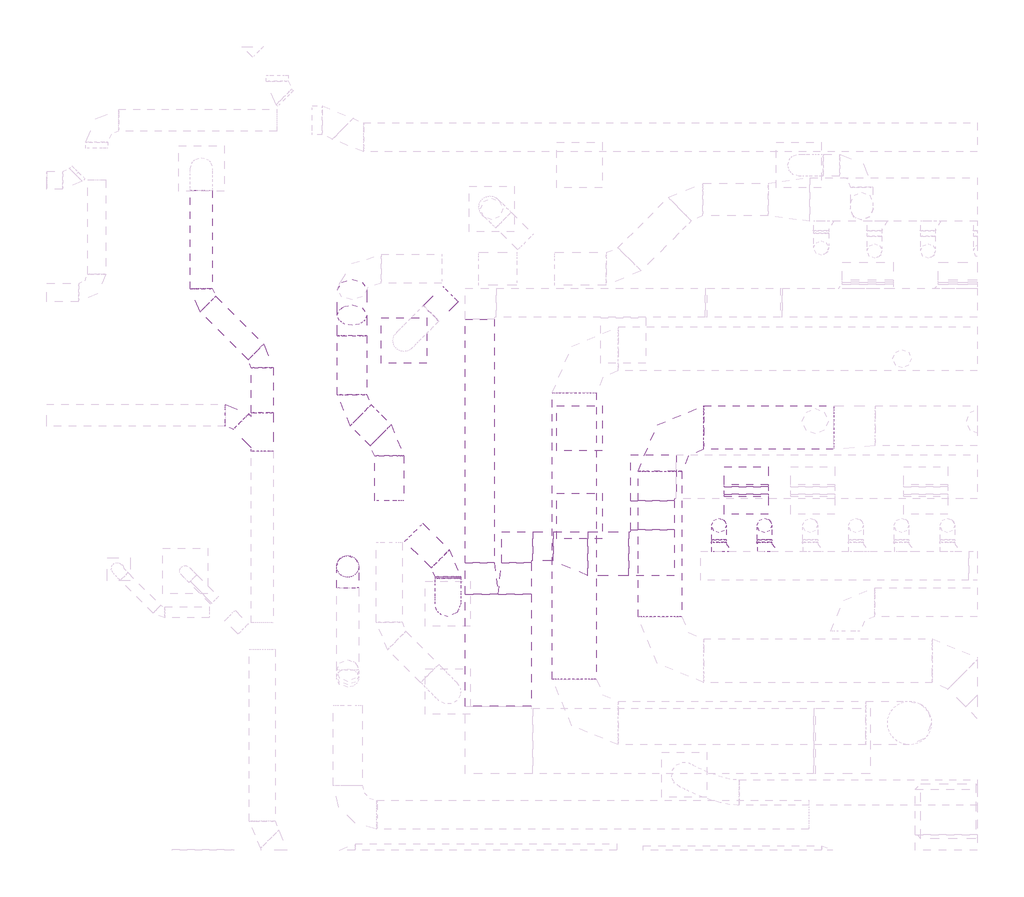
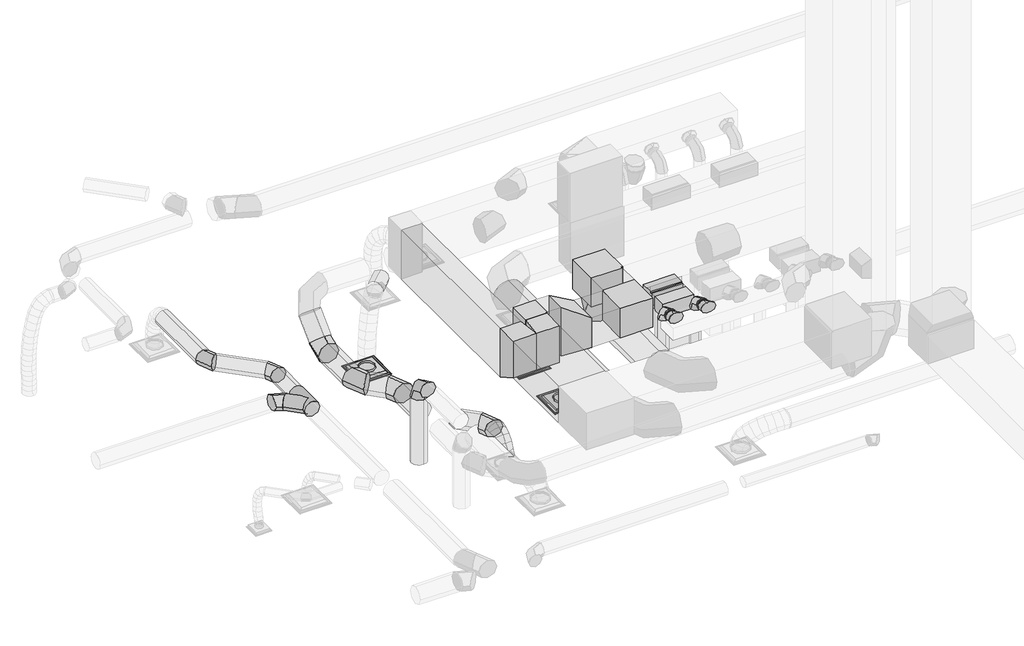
# One storey, part 15 of 33: 27 duct segments, 22 duct fittings, 3 air terminals.
"""IFC4 building model written with IfcOpenShell, lengths in millimetres."""

from ifc_helpers import new_model, si_unit, point, frame, frame_2d, origin, place, context, project, spatial, polyline, circle_curve, ellipse_curve, trimmed, segment, composite_curve, outline, extrude, transform, mapped, element, save
from ifc_brep_helpers import plane_surface, cylinder_surface, advanced_brep
from components import air_terminal_a17ada07, air_terminal_7f3dec8e, rectangular_elbow_mitered_standard_5cce6547, rectangular_elbow_mitered_standard_4791c952, rectangular_elbow_mitered_standard_939e93b7, rectangular_transition_angle_30_degree_e890b99e, rectangular_transition_angle_30_degree_7548fecf, rectangular_transition_angle_45_degree_e3061ba4, round_elbow_1_d_90614eb6, round_elbow_1_d_28128332, round_elbow_1_d_30de4f45, round_elbow_1_d_29f30982, round_elbow_1_d_146a3901, round_elbow_1_d_a253342a, round_takeoff_shoe_standard_04262b54, round_wye_lateral_tapered_body_standard_42fe97ee

model = new_model("IFC4")

# Units and contexts
model_context = context("Model", 3, world=origin())
ifc_project = project(units=[si_unit("LENGTHUNIT", "METRE", prefix="MILLI")], contexts=[model_context])

# Site, building, storey
site = spatial("IfcSite", under=ifc_project)
building = spatial("IfcBuilding", under=site)
storey = spatial("IfcBuildingStorey", under=building, Name="T.O. SLAB - 1ST", Elevation=-25.4)

# Air terminals
placement = place(None, origin())
air_terminal_shape = air_terminal_a17ada07(model_context)
element("IfcAirTerminal", 1, ObjectType="Titus-Round_Neck_Supply_Diffuser-PCS_Surface_Mount : PCS AA-12_24x24", at=placement, inside=storey, context=model_context, shape_type="MappedRepresentation", body=[
    mapped(air_terminal_shape, transform((10845.8, 28333.6034288, 2717.8), x_axis=(-1.0, 0.0, 0.0), y_axis=(0.0, 1.0, 0.0), z_axis=(0.0, 0.0, -1.0))),
])
air_terminal_2_shape = air_terminal_7f3dec8e(model_context)
element("IfcAirTerminal", 2, ObjectType="Titus-Round_Neck_Return_Diffuser-PAR_Surface_Mount : PAR AA-12_24x24 - CRGT", at=placement, inside=storey, context=model_context, shape_type="MappedRepresentation", body=[
    mapped(air_terminal_2_shape, transform((13284.2, 25895.2034288, 2717.8), x_axis=(-1.0, 0.0, 0.0), y_axis=(0.0, 1.0, 0.0), z_axis=(0.0, 0.0, -1.0))),
])
element("IfcAirTerminal", 3, ObjectType="Titus-Round_Neck_Return_Diffuser-PAR_Surface_Mount : PAR AA-12_24x24 - CRGT", at=placement, inside=storey, context=model_context, shape_type="MappedRepresentation", body=[
    mapped(air_terminal_2_shape, transform((13284.2050288, 27114.4034288, 2717.8), x_axis=(-1.0, 0.0, 0.0), y_axis=(0.0, 1.0, 0.0), z_axis=(0.0, 0.0, -1.0))),
])

# Duct fittings
rectangular_elbow_mitered_standard_shape = rectangular_elbow_mitered_standard_5cce6547(model_context)
element("IfcDuctFitting", 4, ObjectType="Rectangular Elbow - Mitered : Standard", at=placement, inside=storey, context=model_context, shape_type="MappedRepresentation", body=[
    mapped(rectangular_elbow_mitered_standard_shape, transform((14299.3111715, 25373.8782411, 4580.9456257), x_axis=(1.0, 0.0, 0.0), y_axis=(0.0, 1.0, 0.0), z_axis=(0.0, 0.0, 1.0))),
])
element("IfcDuctFitting", 5, ObjectType="Rectangular Elbow - Mitered : Standard", at=placement, inside=storey, context=model_context, shape_type="MappedRepresentation", body=[
    mapped(rectangular_elbow_mitered_standard_shape, transform((14299.3111715, 26439.3554681, 4580.9586173), x_axis=(-0.9999999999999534, 0.0, -3.0557005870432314e-07), y_axis=(5.3990938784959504e-12, -0.9999999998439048, -1.76689231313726e-05), z_axis=(-3.055700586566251e-07, -1.7668923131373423e-05, 0.999999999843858))),
])
rectangular_elbow_mitered_standard_2_shape = rectangular_elbow_mitered_standard_4791c952(model_context)
element("IfcDuctFitting", 6, ObjectType="Rectangular Elbow - Mitered : Standard", at=placement, inside=storey, context=model_context, shape_type="MappedRepresentation", body=[
    mapped(rectangular_elbow_mitered_standard_2_shape, transform((12408.1531191, 25475.4782411, 4650.74), x_axis=(-1.0, 0.0, 0.0), y_axis=(0.0, -1.0, 0.0), z_axis=(0.0, 0.0, 1.0))),
])
rectangular_elbow_mitered_standard_3_shape = rectangular_elbow_mitered_standard_939e93b7(model_context)
element("IfcDuctFitting", 7, ObjectType="Rectangular Elbow - Mitered : Standard", at=placement, inside=storey, context=model_context, shape_type="MappedRepresentation", body=[
    mapped(rectangular_elbow_mitered_standard_3_shape, transform((15600.7882518, 26045.4861634, 3860.8), x_axis=(0.0, 0.0, 1.0), y_axis=(0.0, 1.0, 0.0), z_axis=(-1.0, 0.0, 0.0))),
])
element("IfcDuctFitting", 8, ObjectType="Rectangular Elbow - Mitered : Standard", at=placement, inside=storey, context=model_context, shape_type="MappedRepresentation", body=[
    mapped(rectangular_elbow_mitered_standard_3_shape, transform((15600.7882518, 26454.3586872, 3860.8), x_axis=(0.0, 1.0, 0.0), y_axis=(0.0, 0.0, 1.0), z_axis=(1.0, 0.0, 0.0))),
])
rectangular_transition_angle_30_degree_shape = rectangular_transition_angle_30_degree_e890b99e(model_context)
element("IfcDuctFitting", 9, ObjectType="Rectangular Transition - Angle : 30 Degree", at=placement, inside=storey, context=model_context, shape_type="MappedRepresentation", body=[
    mapped(rectangular_transition_angle_30_degree_shape, transform((11925.5531191, 24806.9602544, 4777.7796875), x_axis=(0.0, 1.0, 0.0), y_axis=(-1.0, 0.0, 0.0), z_axis=(0.0, 0.0, 1.0))),
])
rectangular_transition_angle_30_degree_2_shape = rectangular_transition_angle_30_degree_7548fecf(model_context)
element("IfcDuctFitting", 10, ObjectType="Rectangular Transition - Angle : 30 Degree", at=placement, inside=storey, context=model_context, shape_type="MappedRepresentation", body=[
    mapped(rectangular_transition_angle_30_degree_2_shape, transform((12382.7531191, 24806.9602544, 4777.7796875), x_axis=(0.0, 1.0, 0.0), y_axis=(-1.0, 0.0, 0.0), z_axis=(0.0, 0.0, 1.0))),
])
rectangular_transition_angle_45_degree_shape = rectangular_transition_angle_45_degree_e3061ba4(model_context)
element("IfcDuctFitting", 11, ObjectType="Rectangular Transition - Angle : 45 Degree", at=placement, inside=storey, context=model_context, shape_type="MappedRepresentation", body=[
    mapped(rectangular_transition_angle_45_degree_shape, transform((12917.4630158, 25475.4782411, 4650.74), x_axis=(1.0, 0.0, 0.0), y_axis=(0.0, 1.0, 0.0), z_axis=(0.0, 0.0, 1.0))),
])
round_elbow_1_d_shape = round_elbow_1_d_90614eb6(model_context)
element("IfcDuctFitting", 12, ObjectType="Round Elbow : 1 D", at=placement, inside=storey, context=model_context, shape_type="MappedRepresentation", body=[
    mapped(round_elbow_1_d_shape, transform((10064.75, 25195.9184034, 4657.574954), x_axis=(0.0, 0.0, 1.0), y_axis=(0.0, -1.0, 0.0), z_axis=(1.0, 0.0, 0.0))),
])
round_elbow_1_d_2_shape = round_elbow_1_d_28128332(model_context)
element("IfcDuctFitting", 13, ObjectType="Round Elbow : 1 D", at=placement, inside=storey, context=model_context, shape_type="MappedRepresentation", body=[
    mapped(round_elbow_1_d_2_shape, transform((8491.117262, 27295.6755517, 3530.6), x_axis=(-0.7071067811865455, 0.7071067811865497, 0.0), y_axis=(-0.7071067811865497, -0.7071067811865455, 0.0), z_axis=(0.0, 0.0, 1.0))),
])
element("IfcDuctFitting", 14, ObjectType="Round Elbow : 1 D", at=placement, inside=storey, context=model_context, shape_type="MappedRepresentation", body=[
    mapped(round_elbow_1_d_2_shape, transform((8876.475213, 28084.7497606, 3530.6), x_axis=(0.0, 1.0, 0.0), y_axis=(-1.0, 0.0, 0.0), z_axis=(0.0, 0.0, 1.0))),
])
element("IfcDuctFitting", 15, ObjectType="Round Elbow : 1 D", at=placement, inside=storey, context=model_context, shape_type="MappedRepresentation", body=[
    mapped(round_elbow_1_d_2_shape, transform((8031.9449834, 28929.2799902, 3530.6), x_axis=(0.0, -1.0, 0.0), y_axis=(1.0, 0.0, 0.0), z_axis=(0.0, 0.0, 1.0))),
])
round_elbow_1_d_3_shape = round_elbow_1_d_30de4f45(model_context)
element("IfcDuctFitting", 16, ObjectType="Round Elbow : 1 D", at=placement, inside=storey, context=model_context, shape_type="MappedRepresentation", body=[
    mapped(round_elbow_1_d_3_shape, transform((10125.515823, 27414.4685727, 3276.6), x_axis=(0.0, -1.0, 0.0), y_axis=(1.0, 0.0, 0.0), z_axis=(0.0, 0.0, 1.0))),
])
element("IfcDuctFitting", 17, ObjectType="Round Elbow : 1 D", at=placement, inside=storey, context=model_context, shape_type="MappedRepresentation", body=[
    mapped(round_elbow_1_d_3_shape, transform((10641.328611, 26898.6557847, 3276.6), x_axis=(0.0, 1.0, 0.0), y_axis=(-1.0, 0.0, 0.0), z_axis=(0.0, 0.0, 1.0))),
])
element("IfcDuctFitting", 18, ObjectType="Round Elbow : 1 D", at=placement, inside=storey, context=model_context, shape_type="MappedRepresentation", body=[
    mapped(round_elbow_1_d_3_shape, transform((10125.515823, 28567.9591007, 3276.6), x_axis=(0.0, 1.0, 0.0), y_axis=(0.0, 0.0, 1.0), z_axis=(1.0, 0.0, 0.0))),
])
round_elbow_1_d_4_shape = round_elbow_1_d_29f30982(model_context)
element("IfcDuctFitting", 19, ObjectType="Round Elbow : 1 D", at=placement, inside=storey, context=model_context, shape_type="MappedRepresentation", body=[
    mapped(round_elbow_1_d_4_shape, transform((14402.9161472, 27125.1634642, 3892.55), x_axis=(-1.0, 0.0, 0.0), y_axis=(0.0, -1.0, 0.0), z_axis=(0.0, 0.0, 1.0))),
])
round_elbow_1_d_5_shape = round_elbow_1_d_146a3901(model_context)
element("IfcDuctFitting", 20, ObjectType="Round Elbow : 1 D", at=placement, inside=storey, context=model_context, shape_type="MappedRepresentation", body=[
    mapped(round_elbow_1_d_5_shape, transform((11455.4050324, 25196.1411651, 3276.6), x_axis=(0.0, 1.0, 0.0), y_axis=(-1.0, 0.0, 0.0), z_axis=(0.0, 0.0, 1.0))),
])
round_elbow_1_d_6_shape = round_elbow_1_d_a253342a(model_context)
element("IfcDuctFitting", 21, ObjectType="Round Elbow : 1 D", at=placement, inside=storey, context=model_context, shape_type="MappedRepresentation", body=[
    mapped(round_elbow_1_d_6_shape, transform((15221.1839544, 25766.0861634, 4038.6), x_axis=(0.0, 1.0, 0.0), y_axis=(0.0, 0.0, -1.0), z_axis=(-1.0, 0.0, 0.0))),
])
element("IfcDuctFitting", 22, ObjectType="Round Elbow : 1 D", at=placement, inside=storey, context=model_context, shape_type="MappedRepresentation", body=[
    mapped(round_elbow_1_d_6_shape, transform((15856.1839544, 25766.0861634, 4038.6), x_axis=(0.0, 1.0, 0.0), y_axis=(0.0, 0.0, -1.0), z_axis=(-1.0, 0.0, 0.0))),
])
round_takeoff_shoe_standard_shape = round_takeoff_shoe_standard_04262b54(model_context)
element("IfcDuctFitting", 23, ObjectType="Round Takeoff - Shoe : Standard", at=placement, inside=storey, context=model_context, shape_type="MappedRepresentation", body=[
    mapped(round_takeoff_shoe_standard_shape, transform((15221.1839544, 25407.654345, 4038.6), x_axis=(0.0, 1.0, 0.0), y_axis=(-1.0000000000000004, 0.0, 0.0), z_axis=(0.0, 0.0, 1.0000000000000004))),
])
element("IfcDuctFitting", 24, ObjectType="Round Takeoff - Shoe : Standard", at=placement, inside=storey, context=model_context, shape_type="MappedRepresentation", body=[
    mapped(round_takeoff_shoe_standard_shape, transform((15856.1839544, 25407.654345, 4038.6), x_axis=(0.0, 1.0, 0.0), y_axis=(-1.0000000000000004, 0.0, 0.0), z_axis=(0.0, 0.0, 1.0000000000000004))),
])
round_wye_lateral_tapered_body_standard_shape = round_wye_lateral_tapered_body_standard_42fe97ee(model_context)
element("IfcDuctFitting", 25, ObjectType="Round Wye - Lateral - Tapered Body : Standard", at=placement, inside=storey, context=model_context, shape_type="MappedRepresentation", body=[
    mapped(round_wye_lateral_tapered_body_standard_shape, transform((8876.475213, 26910.3176007, 3530.6), x_axis=(0.0, 1.0, 0.0), y_axis=(1.0000000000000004, 0.0, 0.0), z_axis=(0.0, 0.0, -1.0000000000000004))),
])

# Duct segments
element("IfcDuctSegment", 26, ObjectType="Flex - Round", at=placement, inside=storey, context=model_context, shape_type="AdvancedBrep", body=[
    advanced_brep(
    [(11633.2050324, 25031.6034217, 3276.6), (11455.4050324, 25031.6034217, 3098.8), (11277.6050324, 25031.6034217, 3276.6), (11455.4050324, 25031.6034217, 3454.4), (11633.2050324, 24992.7589326, 3276.6), (11455.4050324, 25025.4029475, 3098.8), (11277.6050324, 24992.7600824, 3276.6), (11455.4050324, 24960.1160676, 3454.4), (11633.2, 24676.0014701, 2806.7), (11455.3980413, 24498.2034288, 2806.7), (11277.6, 24676.0053875, 2806.7), (11455.4019587, 24853.8034288, 2806.7), (11633.2046596, 24937.0569567, 3255.433151), (11455.4049911, 25019.238661, 3096.4575603), (11277.6046596, 24937.0597327, 3255.4337689), (11455.4043281, 24854.8780284, 3414.4093596), (11633.2037277, 24852.1074219, 3198.4242252), (11455.4044613, 24970.9463673, 3064.0490039), (11277.6037277, 24852.1111378, 3198.425474), (11455.402994, 24733.2721924, 3332.8006953), (11633.2025162, 24780.1406489, 3115.3097883), (11455.4037126, 24926.4705342, 3012.6838577), (11277.6025162, 24780.1448342, 3115.3115792), (11455.4013198, 24633.8149488, 3217.9375098), (11633.2013047, 24724.5431393, 3015.8265601), (11455.4028689, 24887.7498059, 2943.3990446), (11277.6013047, 24724.5473487, 3015.828394), (11455.3997405, 24561.3406821, 3088.2559094), (11633.2003728, 24688.7012756, 2909.7110601), (11455.4021999, 24862.0217147, 2867.2269658), (11277.6003728, 24688.7053277, 2909.7124283), (11455.3985456, 24515.3848887, 2952.1965226), (11633.2, 24676.0014701, 2828.4552294), (11455.4019587, 24853.8034288, 2814.6447713), (11277.6, 24676.0053875, 2828.4557358), (11455.3980413, 24498.2034288, 2842.266194)],
    [
        (0, 1, circle_curve(frame((11455.4050324, 25031.6034217, 3276.6), z_axis=(0.0, 1.0, 0.0), x_axis=(1.0, 0.0, 0.0)), 177.8)),
        (1, 2, circle_curve(frame((11455.4050324, 25031.6034217, 3276.6), z_axis=(0.0, 1.0, 0.0), x_axis=(1.0, 0.0, 0.0)), 177.8)),
        (2, 3, circle_curve(frame((11455.4050324, 25031.6034217, 3276.6), z_axis=(0.0, 1.0, 0.0), x_axis=(1.0, 0.0, 0.0)), 177.8)),
        (3, 0, circle_curve(frame((11455.4050324, 25031.6034217, 3276.6), z_axis=(0.0, 1.0, 0.0), x_axis=(1.0, 0.0, 0.0)), 177.8)),
        (0, 4),
        (4, 5, ellipse_curve(frame((11455.4050324, 24992.7595075, 3276.6), z_axis=(3.180207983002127e-06, 0.9835606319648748, 0.1805781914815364), x_axis=(-1.73217338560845e-05, 0.18057819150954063, -0.9835606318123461)), 180.7717737, 177.8)),
        (5, 1),
        (5, 6, ellipse_curve(frame((11455.4050324, 24992.7595075, 3276.6), z_axis=(3.180207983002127e-06, 0.9835606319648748, 0.1805781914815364), x_axis=(-1.73217338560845e-05, 0.18057819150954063, -0.9835606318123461)), 180.7717737, 177.8)),
        (6, 2),
        (6, 7, ellipse_curve(frame((11455.4050324, 24992.7595075, 3276.6), z_axis=(3.180207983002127e-06, 0.9835606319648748, 0.1805781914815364), x_axis=(-1.73217338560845e-05, 0.18057819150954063, -0.9835606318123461)), 180.7717737, 177.8)),
        (7, 3),
        (7, 4, ellipse_curve(frame((11455.4050324, 24992.7595075, 3276.6), z_axis=(3.180207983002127e-06, 0.9835606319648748, 0.1805781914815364), x_axis=(-1.73217338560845e-05, 0.18057819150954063, -0.9835606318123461)), 180.7717737, 177.8)),
        (8, 9, circle_curve(frame((11455.4, 24676.0034288, 2806.7), z_axis=(0.0, 0.0, -1.0), x_axis=(0.99999999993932, -1.1016348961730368e-05, 0.0)), 177.8)),
        (9, 10, circle_curve(frame((11455.4, 24676.0034288, 2806.7), z_axis=(0.0, 0.0, -1.0), x_axis=(0.99999999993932, -1.1016348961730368e-05, 0.0)), 177.8)),
        (10, 11, circle_curve(frame((11455.4, 24676.0034288, 2806.7), z_axis=(0.0, 0.0, -1.0), x_axis=(0.99999999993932, -1.1016348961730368e-05, 0.0)), 177.8)),
        (11, 8, circle_curve(frame((11455.4, 24676.0034288, 2806.7), z_axis=(0.0, 0.0, -1.0), x_axis=(0.99999999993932, -1.1016348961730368e-05, 0.0)), 177.8)),
        (4, 12),
        (12, 13, ellipse_curve(frame((11455.4046596, 24937.0583447, 3255.4334599), z_axis=(7.73271000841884e-06, 0.8883284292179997, 0.45920866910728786), x_axis=(-1.254693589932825e-05, 0.45920866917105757, -0.8883284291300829)), 178.9607249, 177.8)),
        (13, 5),
        (13, 14, ellipse_curve(frame((11455.4046596, 24937.0583447, 3255.4334599), z_axis=(7.73271000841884e-06, 0.8883284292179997, 0.45920866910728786), x_axis=(-1.254693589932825e-05, 0.45920866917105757, -0.8883284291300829)), 178.9607249, 177.8)),
        (14, 6),
        (14, 15, ellipse_curve(frame((11455.4046596, 24937.0583447, 3255.4334599), z_axis=(7.73271000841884e-06, 0.8883284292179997, 0.45920866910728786), x_axis=(-1.254693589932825e-05, 0.45920866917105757, -0.8883284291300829)), 178.9607249, 177.8)),
        (15, 7),
        (15, 12, ellipse_curve(frame((11455.4046596, 24937.0583447, 3255.4334599), z_axis=(7.73271000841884e-06, 0.8883284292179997, 0.45920866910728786), x_axis=(-1.254693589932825e-05, 0.45920866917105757, -0.8883284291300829)), 178.9607249, 177.8)),
        (12, 16),
        (16, 17, ellipse_curve(frame((11455.4037277, 24852.1092799, 3198.4248496), z_axis=(1.015411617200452e-05, 0.7490902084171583, 0.6624680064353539), x_axis=(-7.199917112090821e-06, 0.6624680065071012, -0.7490902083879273)), 179.3853987, 177.8)),
        (17, 13),
        (17, 18, ellipse_curve(frame((11455.4037277, 24852.1092799, 3198.4248496), z_axis=(1.015411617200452e-05, 0.7490902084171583, 0.6624680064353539), x_axis=(-7.199917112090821e-06, 0.6624680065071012, -0.7490902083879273)), 179.3853987, 177.8)),
        (18, 14),
        (18, 19, ellipse_curve(frame((11455.4037277, 24852.1092799, 3198.4248496), z_axis=(1.015411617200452e-05, 0.7490902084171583, 0.6624680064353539), x_axis=(-7.199917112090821e-06, 0.6624680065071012, -0.7490902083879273)), 179.3853987, 177.8)),
        (19, 15),
        (19, 16, ellipse_curve(frame((11455.4037277, 24852.1092799, 3198.4248496), z_axis=(1.015411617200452e-05, 0.7490902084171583, 0.6624680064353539), x_axis=(-7.199917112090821e-06, 0.6624680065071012, -0.7490902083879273)), 179.3853987, 177.8)),
        (16, 20),
        (20, 21, ellipse_curve(frame((11455.4025162, 24780.1427415, 3115.3106837), z_axis=(1.0881546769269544e-05, 0.5742032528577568, 0.8187127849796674), x_axis=(1.91012368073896e-06, 0.8187127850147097, -0.574203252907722)), 178.7290921, 177.8)),
        (21, 17),
        (21, 22, ellipse_curve(frame((11455.4025162, 24780.1427415, 3115.3106837), z_axis=(1.0881546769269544e-05, 0.5742032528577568, 0.8187127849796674), x_axis=(1.91012368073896e-06, 0.8187127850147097, -0.574203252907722)), 178.7290921, 177.8)),
        (22, 18),
        (22, 23, ellipse_curve(frame((11455.4025162, 24780.1427415, 3115.3106837), z_axis=(1.0881546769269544e-05, 0.5742032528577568, 0.8187127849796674), x_axis=(1.91012368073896e-06, 0.8187127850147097, -0.574203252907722)), 178.7290921, 177.8)),
        (23, 19),
        (23, 20, ellipse_curve(frame((11455.4025162, 24780.1427415, 3115.3106837), z_axis=(1.0881546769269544e-05, 0.5742032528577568, 0.8187127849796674), x_axis=(1.91012368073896e-06, 0.8187127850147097, -0.574203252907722)), 178.7290921, 177.8)),
        (20, 24),
        (24, 25, ellipse_curve(frame((11455.4013047, 24724.545244, 3015.827477), z_axis=(9.515602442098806e-06, 0.40563832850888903, 0.9140336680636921), x_axis=(1.258019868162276e-05, 0.9140336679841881, -0.40563832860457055)), 178.5542126, 177.8)),
        (25, 21),
        (25, 26, ellipse_curve(frame((11455.4013047, 24724.545244, 3015.827477), z_axis=(9.515602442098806e-06, 0.40563832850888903, 0.9140336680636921), x_axis=(1.258019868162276e-05, 0.9140336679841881, -0.40563832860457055)), 178.5542126, 177.8)),
        (26, 22),
        (26, 27, ellipse_curve(frame((11455.4013047, 24724.545244, 3015.827477), z_axis=(9.515602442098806e-06, 0.40563832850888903, 0.9140336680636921), x_axis=(1.258019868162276e-05, 0.9140336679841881, -0.40563832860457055)), 178.5542126, 177.8)),
        (27, 23),
        (27, 24, ellipse_curve(frame((11455.4013047, 24724.545244, 3015.827477), z_axis=(9.515602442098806e-06, 0.40563832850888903, 0.9140336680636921), x_axis=(1.258019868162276e-05, 0.9140336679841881, -0.40563832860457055)), 178.5542126, 177.8)),
        (24, 28),
        (28, 29, ellipse_curve(frame((11455.4003728, 24688.7033017, 2909.7117442), z_axis=(6.44992434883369e-06, 0.23807730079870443, 0.9712462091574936), x_axis=(2.2217798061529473e-05, 0.9712462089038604, -0.23807730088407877)), 178.449513, 177.8)),
        (29, 25),
        (29, 30, ellipse_curve(frame((11455.4003728, 24688.7033017, 2909.7117442), z_axis=(6.44992434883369e-06, 0.23807730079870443, 0.9712462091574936), x_axis=(2.2217798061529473e-05, 0.9712462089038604, -0.23807730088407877)), 178.449513, 177.8)),
        (30, 26),
        (30, 31, ellipse_curve(frame((11455.4003728, 24688.7033017, 2909.7117442), z_axis=(6.44992434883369e-06, 0.23807730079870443, 0.9712462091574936), x_axis=(2.2217798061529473e-05, 0.9712462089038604, -0.23807730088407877)), 178.449513, 177.8)),
        (31, 27),
        (31, 28, ellipse_curve(frame((11455.4003728, 24688.7033017, 2909.7117442), z_axis=(6.44992434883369e-06, 0.23807730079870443, 0.9712462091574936), x_axis=(2.2217798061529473e-05, 0.9712462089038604, -0.23807730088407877)), 178.449513, 177.8)),
        (28, 32),
        (32, 33, ellipse_curve(frame((11455.4, 24676.0034288, 2828.4554826), z_axis=(2.273101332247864e-06, 0.07744226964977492, 0.996996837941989), x_axis=(2.926405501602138e-05, 0.9969968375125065, -0.077442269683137)), 178.3355706, 177.8)),
        (33, 29),
        (33, 34, ellipse_curve(frame((11455.4, 24676.0034288, 2828.4554826), z_axis=(2.273101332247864e-06, 0.07744226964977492, 0.996996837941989), x_axis=(2.926405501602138e-05, 0.9969968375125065, -0.077442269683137)), 178.3355706, 177.8)),
        (34, 30),
        (34, 35, ellipse_curve(frame((11455.4, 24676.0034288, 2828.4554826), z_axis=(2.273101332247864e-06, 0.07744226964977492, 0.996996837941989), x_axis=(2.926405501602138e-05, 0.9969968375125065, -0.077442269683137)), 178.3355706, 177.8)),
        (35, 31),
        (35, 32, ellipse_curve(frame((11455.4, 24676.0034288, 2828.4554826), z_axis=(2.273101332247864e-06, 0.07744226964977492, 0.996996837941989), x_axis=(2.926405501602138e-05, 0.9969968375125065, -0.077442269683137)), 178.3355706, 177.8)),
        (32, 8),
        (11, 33),
        (10, 34),
        (9, 35),
    ],
    [
        plane_surface(frame((11277.6050324, 25031.6034217, 3276.6), z_axis=(0.0, 1.0, 0.0), x_axis=(0.0, 0.0, -1.0))),
        cylinder_surface(frame((11455.4050324, 25031.6034217, 3276.6), z_axis=(0.0, 1.0, 0.0), x_axis=(1.0, 0.0, 0.0)), 177.8),
        plane_surface(frame((11455.4, 24498.2034288, 2806.7), z_axis=(0.0, 0.0, -1.0), x_axis=(-1.0, 0.0, 0.0))),
        cylinder_surface(frame((11455.4050324, 24992.7595075, 3276.6), z_axis=(6.255854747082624e-06, 0.9347830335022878, 0.35521920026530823), x_axis=(0.9999999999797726, -6.255854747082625e-06, -1.1485524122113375e-06)), 177.8),
        cylinder_surface(frame((11455.4046596, 24937.0583447, 3255.4334599), z_axis=(9.109257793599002e-06, 0.8303505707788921, 0.5572413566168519), x_axis=(0.999999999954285, -9.183840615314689e-06, -2.6621328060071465e-06)), 177.8),
        cylinder_surface(frame((11455.4037277, 24852.1092799, 3198.4248496), z_axis=(1.1019491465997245e-05, 0.6545890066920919, 0.7559849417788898), x_axis=(0.9999999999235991, -1.1447611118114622e-05, -4.664128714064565e-06)), 177.8),
        cylinder_surface(frame((11455.4025162, 24780.1427415, 3115.3106837), z_axis=(1.0630470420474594e-05, 0.4878477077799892, 0.8729287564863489), x_axis=(0.9999999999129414, -1.2009996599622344e-05, -5.46599143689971e-06)), 177.8),
        cylinder_surface(frame((11455.4013047, 24724.545244, 3015.827477), z_axis=(8.320346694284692e-06, 0.32000211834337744, 0.9474168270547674), x_axis=(0.9999999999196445, -1.1724254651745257e-05, -4.822122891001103e-06)), 177.8),
        cylinder_surface(frame((11455.4003728, 24688.7033017, 2909.7117442), z_axis=(4.532549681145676e-06, 0.1544193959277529, 0.9880053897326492), x_axis=(0.9999999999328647, -1.1236280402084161e-05, -2.8314117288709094e-06)), 177.8),
        cylinder_surface(frame((11455.4, 24676.0034288, 2828.4554826), z_axis=(0.0, 0.0, 1.0), x_axis=(0.99999999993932, -1.1016348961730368e-05, 0.0)), 177.8),
    ],
    [
        (0, [[1, 2, 3, 4]]),
        (1, [[-1, 5, 6, 7]]),
        (1, [[-2, -7, 8, 9]]),
        (1, [[-3, -9, 10, 11]]),
        (1, [[-4, -11, 12, -5]]),
        (2, [[13, 14, 15, 16]]),
        (3, [[-6, 17, 18, 19]]),
        (3, [[-8, -19, 20, 21]]),
        (3, [[-10, -21, 22, 23]]),
        (3, [[-12, -23, 24, -17]]),
        (4, [[-18, 25, 26, 27]]),
        (4, [[-20, -27, 28, 29]]),
        (4, [[-22, -29, 30, 31]]),
        (4, [[-24, -31, 32, -25]]),
        (5, [[-26, 33, 34, 35]]),
        (5, [[-28, -35, 36, 37]]),
        (5, [[-30, -37, 38, 39]]),
        (5, [[-32, -39, 40, -33]]),
        (6, [[-34, 41, 42, 43]]),
        (6, [[-36, -43, 44, 45]]),
        (6, [[-38, -45, 46, 47]]),
        (6, [[-40, -47, 48, -41]]),
        (7, [[-42, 49, 50, 51]]),
        (7, [[-44, -51, 52, 53]]),
        (7, [[-46, -53, 54, 55]]),
        (7, [[-48, -55, 56, -49]]),
        (8, [[-50, 57, 58, 59]]),
        (8, [[-52, -59, 60, 61]]),
        (8, [[-54, -61, 62, 63]]),
        (8, [[-56, -63, 64, -57]]),
        (9, [[-58, 65, -16, 66]]),
        (9, [[-60, -66, -15, 67]]),
        (9, [[-62, -67, -14, 68]]),
        (9, [[-64, -68, -13, -65]]),
    ],
),
])
element("IfcDuctSegment", 27, ObjectType="Mitered Elbows / Taps", at=placement, inside=storey, context=model_context, shape_type="SweptSolid", body=[
    extrude(outline(polyline([(12103.3531191, 25246.8782411), (11696.9531191, 25246.8782411), (11696.9531191, 28630.4191303), (12103.3531191, 28630.4191303), (12103.3531191, 25246.8782411)])), frame((0.0, 0.0, 4142.74), z_axis=(0.0, 0.0, 1.0), x_axis=(1.0, 0.0, 0.0)), (0.0, 0.0, 1.0), 1016.0),
])
element("IfcDuctSegment", 28, ObjectType="Mitered Elbows / Taps", at=placement, inside=storey, context=model_context, shape_type="SweptSolid", body=[
    extrude(outline(polyline([(15905.5882518, 25918.4861634), (15295.9882518, 25918.4861634), (15295.9882518, 26172.4861634), (15905.5882518, 26172.4861634), (15905.5882518, 25918.4861634)])), frame((0.0, 0.0, 3010.628306), z_axis=(0.0, 0.0, 1.0), x_axis=(1.0, 0.0, 0.0)), (0.0, 0.0, 1.0), 697.771694),
])
element("IfcDuctSegment", 29, ObjectType="Mitered Elbows / Taps", at=placement, inside=storey, context=model_context, shape_type="SweptSolid", body=[
    extrude(outline(polyline([(15905.5882518, 26197.8861634), (15295.9882518, 26197.8861634), (15295.9882518, 26301.9586872), (15905.5882518, 26301.9586872), (15905.5882518, 26197.8861634)])), frame((0.0, 0.0, 3733.8), z_axis=(0.0, 0.0, 1.0), x_axis=(1.0, 0.0, 0.0)), (0.0, 0.0, 1.0), 254.0),
])
element("IfcDuctSegment", 30, ObjectType="Mitered Elbows / Taps", at=placement, inside=storey, context=model_context, shape_type="SweptSolid", body=[
    extrude(outline(polyline([(13399.4267604, 25069.0782411), (13399.4267604, 25678.6782411), (13969.1111715, 25678.6782411), (13969.1111715, 25069.0782411), (13399.4267604, 25069.0782411)])), frame((0.0, 0.0, 4276.1456257), z_axis=(0.0, 0.0, 1.0), x_axis=(1.0, 0.0, 0.0)), (0.0, 0.0, 1.0), 609.6),
])
element("IfcDuctSegment", 31, ObjectType="Mitered Elbows / Taps", at=placement, inside=storey, context=model_context, shape_type="SweptSolid", body=[
    extrude(outline(polyline([(12636.7531191, 25272.2782411), (12636.7531191, 25678.6782411), (12917.4630158, 25678.6782411), (12917.4630158, 25272.2782411), (12636.7531191, 25272.2782411)])), frame((0.0, 0.0, 4142.74), z_axis=(0.0, 0.0, 1.0), x_axis=(1.0, 0.0, 0.0)), (0.0, 0.0, 1.0), 1016.0),
])
element("IfcDuctSegment", 32, ObjectType="Mitered Elbows / Taps", at=placement, inside=storey, context=model_context, shape_type="SweptSolid", body=[
    extrude(outline(polyline([(0.0, -609.6), (0.0, 0.0), (405.0772272, 0.0), (405.0772272, -609.6), (0.0, -609.6)])), frame((13994.5111715, 25704.0836266, 4276.1456257), z_axis=(0.0, -1.766892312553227e-05, 0.9999999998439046), x_axis=(4.421532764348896e-12, 0.9999999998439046, 1.766892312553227e-05)), (0.0, 0.0, 1.0), 609.6),
])
element("IfcDuctSegment", 33, ObjectType="Mitered Elbows / Taps", at=placement, inside=storey, context=model_context, shape_type="SweptSolid", body=[
    extrude(outline(polyline([(15905.5882518, 26327.3586872), (15295.9882518, 26327.3586872), (15295.9882518, 26581.3586872), (15905.5882518, 26581.3586872), (15905.5882518, 26327.3586872)])), frame((0.0, 0.0, 4013.2), z_axis=(0.0, 0.0, 1.0), x_axis=(1.0, 0.0, 0.0)), (0.0, 0.0, 1.0), 262.9587181),
])
element("IfcDuctSegment", 34, ObjectType="Radius Elbows / Taps", at=placement, inside=storey, context=model_context, shape_type="SweptSolid", body=[
    extrude(outline(polyline([(12611.3531191, 23252.523209), (11696.9531191, 23252.523209), (11696.9531191, 24806.9602544), (12611.3531191, 24806.9602544), (12611.3531191, 23252.523209)])), frame((0.0, 0.0, 4396.74), z_axis=(0.0, 0.0, 1.0), x_axis=(1.0, 0.0, 0.0)), (0.0, 0.0, 1.0), 762.0),
])
element("IfcDuctSegment", 35, ObjectType="Taps", at=placement, inside=storey, context=model_context, shape_type="SweptSolid", body=[
    extrude(outline(composite_curve([segment(trimmed(circle_curve(frame_2d((4038.6, 15221.1839544)), 101.6), [point((4038.6, 15322.7839544))], [point((4140.2, 15221.1839544))], False, "CARTESIAN"), True, "CONTINUOUS"), segment(trimmed(circle_curve(frame_2d((4038.6, 15221.1839544)), 101.6), [point((4140.2, 15221.1839544))], [point((4038.6, 15119.5839544))], False, "CARTESIAN"), True, "CONTINUOUS"), segment(trimmed(circle_curve(frame_2d((4038.6, 15221.1839544)), 101.6), [point((4038.6, 15119.5839544))], [point((3937.0, 15221.1839544))], False, "CARTESIAN"), True, "CONTINUOUS"), segment(trimmed(circle_curve(frame_2d((4038.6, 15221.1839544)), 101.6), [point((3937.0, 15221.1839544))], [point((4038.6, 15322.7839544))], False, "CARTESIAN"), True, "CONTINUOUS")], self_intersect=False)), frame((0.0, 25534.654345, 0.0), z_axis=(0.0, 1.0, 0.0), x_axis=(0.0, 0.0, 1.0)), (0.0, 0.0, 1.0), 28.2318184),
])
element("IfcDuctSegment", 36, ObjectType="Taps", at=placement, inside=storey, context=model_context, shape_type="SweptSolid", body=[
    extrude(outline(composite_curve([segment(trimmed(circle_curve(frame_2d((15221.1839544, 25766.0861634)), 101.6), [point((15322.7839544, 25766.0861634))], [point((15221.1839544, 25664.4861634))], False, "CARTESIAN"), True, "CONTINUOUS"), segment(trimmed(circle_curve(frame_2d((15221.1839544, 25766.0861634)), 101.6), [point((15221.1839544, 25664.4861634))], [point((15119.5839544, 25766.0861634))], False, "CARTESIAN"), True, "CONTINUOUS"), segment(trimmed(circle_curve(frame_2d((15221.1839544, 25766.0861634)), 101.6), [point((15119.5839544, 25766.0861634))], [point((15221.1839544, 25867.6861634))], False, "CARTESIAN"), True, "CONTINUOUS"), segment(trimmed(circle_curve(frame_2d((15221.1839544, 25766.0861634)), 101.6), [point((15221.1839544, 25867.6861634))], [point((15322.7839544, 25766.0861634))], False, "CARTESIAN"), True, "CONTINUOUS")], self_intersect=False)), frame((0.0, 0.0, 3010.628306), z_axis=(0.0, 0.0, 1.0), x_axis=(1.0, 0.0, 0.0)), (0.0, 0.0, 1.0), 824.771694),
])
element("IfcDuctSegment", 37, ObjectType="Taps", at=placement, inside=storey, context=model_context, shape_type="SweptSolid", body=[
    extrude(outline(composite_curve([segment(trimmed(circle_curve(frame_2d((4038.6, 15856.1839544)), 101.6), [point((4038.6, 15957.7839544))], [point((4140.2, 15856.1839544))], False, "CARTESIAN"), True, "CONTINUOUS"), segment(trimmed(circle_curve(frame_2d((4038.6, 15856.1839544)), 101.6), [point((4140.2, 15856.1839544))], [point((4038.6, 15754.5839544))], False, "CARTESIAN"), True, "CONTINUOUS"), segment(trimmed(circle_curve(frame_2d((4038.6, 15856.1839544)), 101.6), [point((4038.6, 15754.5839544))], [point((3937.0, 15856.1839544))], False, "CARTESIAN"), True, "CONTINUOUS"), segment(trimmed(circle_curve(frame_2d((4038.6, 15856.1839544)), 101.6), [point((3937.0, 15856.1839544))], [point((4038.6, 15957.7839544))], False, "CARTESIAN"), True, "CONTINUOUS")], self_intersect=False)), frame((0.0, 25534.654345, 0.0), z_axis=(0.0, 1.0, 0.0), x_axis=(0.0, 0.0, 1.0)), (0.0, 0.0, 1.0), 28.2318184),
])
element("IfcDuctSegment", 38, ObjectType="Taps", at=placement, inside=storey, context=model_context, shape_type="SweptSolid", body=[
    extrude(outline(composite_curve([segment(trimmed(circle_curve(frame_2d((15856.1839544, 25766.0861634)), 101.6), [point((15957.7839544, 25766.0861634))], [point((15856.1839544, 25664.4861634))], False, "CARTESIAN"), True, "CONTINUOUS"), segment(trimmed(circle_curve(frame_2d((15856.1839544, 25766.0861634)), 101.6), [point((15856.1839544, 25664.4861634))], [point((15754.5839544, 25766.0861634))], False, "CARTESIAN"), True, "CONTINUOUS"), segment(trimmed(circle_curve(frame_2d((15856.1839544, 25766.0861634)), 101.6), [point((15754.5839544, 25766.0861634))], [point((15856.1839544, 25867.6861634))], False, "CARTESIAN"), True, "CONTINUOUS"), segment(trimmed(circle_curve(frame_2d((15856.1839544, 25766.0861634)), 101.6), [point((15856.1839544, 25867.6861634))], [point((15957.7839544, 25766.0861634))], False, "CARTESIAN"), True, "CONTINUOUS")], self_intersect=False)), frame((0.0, 0.0, 3010.628306), z_axis=(0.0, 0.0, 1.0), x_axis=(1.0, 0.0, 0.0)), (0.0, 0.0, 1.0), 824.771694),
])
element("IfcDuctSegment", 39, ObjectType="Taps", at=placement, inside=storey, context=model_context, shape_type="SweptSolid", body=[
    extrude(outline(composite_curve([segment(trimmed(circle_curve(frame_2d((3276.6, 10125.515823)), 203.2), [point((3276.6, 10328.715823))], [point((3479.8, 10125.515823))], False, "CARTESIAN"), True, "CONTINUOUS"), segment(trimmed(circle_curve(frame_2d((3276.6, 10125.515823)), 203.2), [point((3479.8, 10125.515823))], [point((3276.6, 9922.315823))], False, "CARTESIAN"), True, "CONTINUOUS"), segment(trimmed(circle_curve(frame_2d((3276.6, 10125.515823)), 203.2), [point((3276.6, 9922.315823))], [point((3073.4, 10125.515823))], False, "CARTESIAN"), True, "CONTINUOUS"), segment(trimmed(circle_curve(frame_2d((3276.6, 10125.515823)), 203.2), [point((3073.4, 10125.515823))], [point((3276.6, 10328.715823))], False, "CARTESIAN"), True, "CONTINUOUS")], self_intersect=False)), frame((0.0, 27582.8049645, 0.0), z_axis=(0.0, 1.0, 0.0), x_axis=(0.0, 0.0, 1.0)), (0.0, 0.0, 1.0), 816.8177445),
])
element("IfcDuctSegment", 40, ObjectType="Taps", at=placement, inside=storey, context=model_context, shape_type="SweptSolid", body=[
    extrude(outline(composite_curve([segment(trimmed(circle_curve(frame_2d((0.0, -203.2)), 203.2), [point((-203.2, -203.2))], [point((0.0, 0.0))], False, "CARTESIAN"), True, "CONTINUOUS"), segment(trimmed(circle_curve(frame_2d((0.0, -203.2)), 203.2), [point((0.0, 0.0))], [point((203.2, -203.2))], False, "CARTESIAN"), True, "CONTINUOUS"), segment(trimmed(circle_curve(frame_2d((0.0, -203.2)), 203.2), [point((203.2, -203.2))], [point((0.0, -406.4))], False, "CARTESIAN"), True, "CONTINUOUS"), segment(trimmed(circle_curve(frame_2d((0.0, -203.2)), 203.2), [point((0.0, -406.4))], [point((-203.2, -203.2))], False, "CARTESIAN"), True, "CONTINUOUS")], self_intersect=False)), frame((10522.2968068, 27017.6875889, 3073.4), z_axis=(-0.7071067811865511, 0.707106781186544, 0.0), x_axis=(0.707106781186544, 0.7071067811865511, 0.0)), (0.0, 0.0, 1.0), 392.7966569),
])
element("IfcDuctSegment", 41, ObjectType="Taps", at=placement, inside=storey, context=model_context, shape_type="SweptSolid", body=[
    extrude(outline(composite_curve([segment(trimmed(circle_curve(frame_2d((3276.6, 10641.328611)), 203.2), [point((3276.6, 10438.128611))], [point((3073.4, 10641.328611))], False, "CARTESIAN"), True, "CONTINUOUS"), segment(trimmed(circle_curve(frame_2d((3276.6, 10641.328611)), 203.2), [point((3073.4, 10641.328611))], [point((3276.6, 10844.528611))], False, "CARTESIAN"), True, "CONTINUOUS"), segment(trimmed(circle_curve(frame_2d((3276.6, 10641.328611)), 203.2), [point((3276.6, 10844.528611))], [point((3479.8, 10641.328611))], False, "CARTESIAN"), True, "CONTINUOUS"), segment(trimmed(circle_curve(frame_2d((3276.6, 10641.328611)), 203.2), [point((3479.8, 10641.328611))], [point((3276.6, 10438.128611))], False, "CARTESIAN"), True, "CONTINUOUS")], self_intersect=False)), frame((0.0, 26111.4760392, 0.0), z_axis=(0.0, 1.0, 0.0), x_axis=(0.0, 0.0, 1.0)), (0.0, 0.0, 1.0), 618.8433538),
])
element("IfcDuctSegment", 42, ObjectType="Taps", at=placement, inside=storey, context=model_context, shape_type="SweptSolid", body=[
    extrude(outline(composite_curve([segment(trimmed(circle_curve(frame_2d((0.0, -177.8)), 177.8), [point((-177.8, -177.8))], [point((0.0, 0.0))], False, "CARTESIAN"), True, "CONTINUOUS"), segment(trimmed(circle_curve(frame_2d((0.0, -177.8)), 177.8), [point((0.0, 0.0))], [point((177.8, -177.8))], False, "CARTESIAN"), True, "CONTINUOUS"), segment(trimmed(circle_curve(frame_2d((0.0, -177.8)), 177.8), [point((177.8, -177.8))], [point((0.0, -355.6))], False, "CARTESIAN"), True, "CONTINUOUS"), segment(trimmed(circle_curve(frame_2d((0.0, -177.8)), 177.8), [point((0.0, -355.6))], [point((-177.8, -177.8))], False, "CARTESIAN"), True, "CONTINUOUS")], self_intersect=False)), frame((11351.2522038, 25300.2939937, 3098.8), z_axis=(-0.707106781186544, 0.7071067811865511, 0.0), x_axis=(0.7071067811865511, 0.707106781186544, 0.0)), (0.0, 0.0, 1.0), 520.8091779),
])
element("IfcDuctSegment", 43, ObjectType="Taps", at=placement, inside=storey, context=model_context, shape_type="SweptSolid", body=[
    extrude(outline(composite_curve([segment(trimmed(circle_curve(frame_2d((3276.6, 11455.4050324)), 177.8), [point((3276.6, 11277.6050324))], [point((3098.8, 11455.4050324))], False, "CARTESIAN"), True, "CONTINUOUS"), segment(trimmed(circle_curve(frame_2d((3276.6, 11455.4050324)), 177.8), [point((3098.8, 11455.4050324))], [point((3276.6, 11633.2050324))], False, "CARTESIAN"), True, "CONTINUOUS"), segment(trimmed(circle_curve(frame_2d((3276.6, 11455.4050324)), 177.8), [point((3276.6, 11633.2050324))], [point((3454.4, 11455.4050324))], False, "CARTESIAN"), True, "CONTINUOUS"), segment(trimmed(circle_curve(frame_2d((3276.6, 11455.4050324)), 177.8), [point((3454.4, 11455.4050324))], [point((3276.6, 11277.6050324))], False, "CARTESIAN"), True, "CONTINUOUS")], self_intersect=False)), frame((0.0, 25031.6034217, 0.0), z_axis=(0.0, 1.0, 0.0), x_axis=(0.0, 0.0, 1.0)), (0.0, 0.0, 1.0), 17.2434007),
])
element("IfcDuctSegment", 44, ObjectType="Taps", at=placement, inside=storey, context=model_context, shape_type="SweptSolid", body=[
    extrude(outline(composite_curve([segment(trimmed(circle_curve(frame_2d((0.0, -152.4)), 152.4), [point((-152.4, -152.4))], [point((0.0, 0.0))], False, "CARTESIAN"), True, "CONTINUOUS"), segment(trimmed(circle_curve(frame_2d((0.0, -152.4)), 152.4), [point((0.0, 0.0))], [point((152.4, -152.4))], False, "CARTESIAN"), True, "CONTINUOUS"), segment(trimmed(circle_curve(frame_2d((0.0, -152.4)), 152.4), [point((152.4, -152.4))], [point((0.0, -304.8))], False, "CARTESIAN"), True, "CONTINUOUS"), segment(trimmed(circle_curve(frame_2d((0.0, -152.4)), 152.4), [point((0.0, -304.8))], [point((-152.4, -152.4))], False, "CARTESIAN"), True, "CONTINUOUS")], self_intersect=False)), frame((11223.3501883, 28711.1485883, 3886.2), z_axis=(0.7071067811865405, 0.7071067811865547, 0.0), x_axis=(0.7071067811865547, -0.7071067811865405, 0.0)), (0.0, 0.0, 1.0), 381.0),
])
element("IfcDuctSegment", 45, ObjectType="Taps", at=placement, inside=storey, context=model_context, shape_type="SweptSolid", body=[
    extrude(outline(composite_curve([segment(trimmed(circle_curve(frame_2d((3530.6, 8876.475213)), 152.4), [point((3530.6, 9028.875213))], [point((3683.0, 8876.475213))], False, "CARTESIAN"), True, "CONTINUOUS"), segment(trimmed(circle_curve(frame_2d((3530.6, 8876.475213)), 152.4), [point((3683.0, 8876.475213))], [point((3530.6, 8724.075213))], False, "CARTESIAN"), True, "CONTINUOUS"), segment(trimmed(circle_curve(frame_2d((3530.6, 8876.475213)), 152.4), [point((3530.6, 8724.075213))], [point((3378.2, 8876.475213))], False, "CARTESIAN"), True, "CONTINUOUS"), segment(trimmed(circle_curve(frame_2d((3530.6, 8876.475213)), 152.4), [point((3378.2, 8876.475213))], [point((3530.6, 9028.875213))], False, "CARTESIAN"), True, "CONTINUOUS")], self_intersect=False)), frame((0.0, 27329.0437476, 0.0), z_axis=(0.0, 1.0, 0.0), x_axis=(0.0, 0.0, 1.0)), (0.0, 0.0, 1.0), 629.4537192),
])
element("IfcDuctSegment", 46, ObjectType="Taps", at=placement, inside=storey, context=model_context, shape_type="SweptSolid", body=[
    extrude(outline(composite_curve([segment(trimmed(circle_curve(frame_2d((0.0, 152.4)), 152.4), [point((152.4, 152.4))], [point((0.0, 0.0))], False, "CARTESIAN"), True, "CONTINUOUS"), segment(trimmed(circle_curve(frame_2d((0.0, 152.4)), 152.4), [point((0.0, 0.0))], [point((-152.4, 152.4))], False, "CARTESIAN"), True, "CONTINUOUS"), segment(trimmed(circle_curve(frame_2d((0.0, 152.4)), 152.4), [point((-152.4, 152.4))], [point((0.0, 304.8))], False, "CARTESIAN"), True, "CONTINUOUS"), segment(trimmed(circle_curve(frame_2d((0.0, 152.4)), 152.4), [point((0.0, 304.8))], [point((152.4, 152.4))], False, "CARTESIAN"), True, "CONTINUOUS")], self_intersect=False)), frame((8787.2013599, 28174.0236137, 3683.0), z_axis=(-0.7071067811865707, 0.7071067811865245, 0.0), x_axis=(0.7071067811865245, 0.7071067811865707, 0.0)), (0.0, 0.0, 1.0), 941.841517),
])
element("IfcDuctSegment", 47, ObjectType="Taps", at=placement, inside=storey, context=model_context, shape_type="SweptSolid", body=[
    extrude(outline(composite_curve([segment(trimmed(circle_curve(frame_2d((3530.6, 8031.9449834)), 152.4), [point((3530.6, 8184.3449834))], [point((3683.0, 8031.9449834))], False, "CARTESIAN"), True, "CONTINUOUS"), segment(trimmed(circle_curve(frame_2d((3530.6, 8031.9449834)), 152.4), [point((3683.0, 8031.9449834))], [point((3530.6, 7879.5449834))], False, "CARTESIAN"), True, "CONTINUOUS"), segment(trimmed(circle_curve(frame_2d((3530.6, 8031.9449834)), 152.4), [point((3530.6, 7879.5449834))], [point((3378.2, 8031.9449834))], False, "CARTESIAN"), True, "CONTINUOUS"), segment(trimmed(circle_curve(frame_2d((3530.6, 8031.9449834)), 152.4), [point((3378.2, 8031.9449834))], [point((3530.6, 8184.3449834))], False, "CARTESIAN"), True, "CONTINUOUS")], self_intersect=False)), frame((0.0, 29055.5322841, 0.0), z_axis=(0.0, 1.0, 0.0), x_axis=(0.0, 0.0, 1.0)), (0.0, 0.0, 1.0), 1363.5049313),
])
element("IfcDuctSegment", 48, ObjectType="Taps", at=placement, inside=storey, context=model_context, shape_type="SweptSolid", body=[
    extrude(outline(composite_curve([segment(trimmed(circle_curve(frame_2d((3892.55, 14402.9161472)), 304.8), [point((3892.55, 14707.7161472))], [point((4197.35, 14402.9161472))], False, "CARTESIAN"), True, "CONTINUOUS"), segment(trimmed(circle_curve(frame_2d((3892.55, 14402.9161472)), 304.8), [point((4197.35, 14402.9161472))], [point((3892.55, 14098.1161472))], False, "CARTESIAN"), True, "CONTINUOUS"), segment(trimmed(circle_curve(frame_2d((3892.55, 14402.9161472)), 304.8), [point((3892.55, 14098.1161472))], [point((3587.75, 14402.9161472))], False, "CARTESIAN"), True, "CONTINUOUS"), segment(trimmed(circle_curve(frame_2d((3892.55, 14402.9161472)), 304.8), [point((3587.75, 14402.9161472))], [point((3892.55, 14707.7161472))], False, "CARTESIAN"), True, "CONTINUOUS")], self_intersect=False)), frame((0.0, 24494.6043541, 0.0), z_axis=(0.0, 1.0, 0.0), x_axis=(0.0, 0.0, 1.0)), (0.0, 0.0, 1.0), 2020.9591101),
])
element("IfcDuctSegment", 49, ObjectType="Taps", at=placement, inside=storey, context=model_context, shape_type="SweptSolid", body=[
    extrude(outline(composite_curve([segment(trimmed(circle_curve(frame_2d((10064.75, 25195.9184034)), 152.4), [point((10217.15, 25195.9184034))], [point((10064.75, 25043.5184034))], False, "CARTESIAN"), True, "CONTINUOUS"), segment(trimmed(circle_curve(frame_2d((10064.75, 25195.9184034)), 152.4), [point((10064.75, 25043.5184034))], [point((9912.35, 25195.9184034))], False, "CARTESIAN"), True, "CONTINUOUS"), segment(trimmed(circle_curve(frame_2d((10064.75, 25195.9184034)), 152.4), [point((9912.35, 25195.9184034))], [point((10064.75, 25348.3184034))], False, "CARTESIAN"), True, "CONTINUOUS"), segment(trimmed(circle_curve(frame_2d((10064.75, 25195.9184034)), 152.4), [point((10064.75, 25348.3184034))], [point((10217.15, 25195.9184034))], False, "CARTESIAN"), True, "CONTINUOUS")], self_intersect=False)), frame((0.0, 0.0, 3010.628306), z_axis=(0.0, 0.0, 1.0), x_axis=(1.0, 0.0, 0.0)), (0.0, 0.0, 1.0), 1348.4305093),
])
element("IfcDuctSegment", 50, ObjectType="Taps", at=placement, inside=storey, context=model_context, shape_type="SweptSolid", body=[
    extrude(outline(composite_curve([segment(trimmed(circle_curve(frame_2d((0.0, -203.2)), 203.2), [point((-203.2, -203.2))], [point((0.0, 0.0))], False, "CARTESIAN"), True, "CONTINUOUS"), segment(trimmed(circle_curve(frame_2d((0.0, -203.2)), 203.2), [point((0.0, 0.0))], [point((203.2, -203.2))], False, "CARTESIAN"), True, "CONTINUOUS"), segment(trimmed(circle_curve(frame_2d((0.0, -203.2)), 203.2), [point((203.2, -203.2))], [point((0.0, -406.4))], False, "CARTESIAN"), True, "CONTINUOUS"), segment(trimmed(circle_curve(frame_2d((0.0, -203.2)), 203.2), [point((0.0, -406.4))], [point((-203.2, -203.2))], False, "CARTESIAN"), True, "CONTINUOUS")], self_intersect=False)), frame((10125.515823, 28830.6750028, 3251.9477062), z_axis=(0.0, 0.7071067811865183, 0.7071067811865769), x_axis=(1.0, 0.0, 0.0)), (0.0, 0.0, 1.0), 502.8943428),
])
element("IfcDuctSegment", 51, ObjectType="Tees", at=placement, inside=storey, context=model_context, shape_type="SweptSolid", body=[
    extrude(outline(composite_curve([segment(trimmed(circle_curve(frame_2d((27125.1634642, 3892.55)), 304.8), [point((26820.3634642, 3892.55))], [point((27125.1634642, 4197.35))], False, "CARTESIAN"), True, "CONTINUOUS"), segment(trimmed(circle_curve(frame_2d((27125.1634642, 3892.55)), 304.8), [point((27125.1634642, 4197.35))], [point((27429.9634642, 3892.55))], False, "CARTESIAN"), True, "CONTINUOUS"), segment(trimmed(circle_curve(frame_2d((27125.1634642, 3892.55)), 304.8), [point((27429.9634642, 3892.55))], [point((27125.1634642, 3587.75))], False, "CARTESIAN"), True, "CONTINUOUS"), segment(trimmed(circle_curve(frame_2d((27125.1634642, 3892.55)), 304.8), [point((27125.1634642, 3587.75))], [point((26820.3634642, 3892.55))], False, "CARTESIAN"), True, "CONTINUOUS")], self_intersect=False)), frame((15012.5161472, 0.0, 0.0), z_axis=(1.0, 0.0, 0.0), x_axis=(0.0, 1.0, 0.0)), (0.0, 0.0, 1.0), 1802.2739309),
])
element("IfcDuctSegment", 52, ObjectType="Tees", at=placement, inside=storey, context=model_context, shape_type="SweptSolid", body=[
    extrude(outline(composite_curve([segment(trimmed(circle_curve(frame_2d((3892.55, 13213.9872077)), 304.8), [point((3892.55, 12909.1872077))], [point((3587.75, 13213.9872077))], False, "CARTESIAN"), True, "CONTINUOUS"), segment(trimmed(circle_curve(frame_2d((3892.55, 13213.9872077)), 304.8), [point((3587.75, 13213.9872077))], [point((3892.55, 13518.7872077))], False, "CARTESIAN"), True, "CONTINUOUS"), segment(trimmed(circle_curve(frame_2d((3892.55, 13213.9872077)), 304.8), [point((3892.55, 13518.7872077))], [point((4197.35, 13213.9872077))], False, "CARTESIAN"), True, "CONTINUOUS"), segment(trimmed(circle_curve(frame_2d((3892.55, 13213.9872077)), 304.8), [point((4197.35, 13213.9872077))], [point((3892.55, 12909.1872077))], False, "CARTESIAN"), True, "CONTINUOUS")], self_intersect=False)), frame((0.0, 23629.6042983, 0.0), z_axis=(0.0, 1.0, 0.0), x_axis=(0.0, 0.0, 1.0)), (0.0, 0.0, 1.0), 3978.4002491),
])

save(model, "model.ifc")
